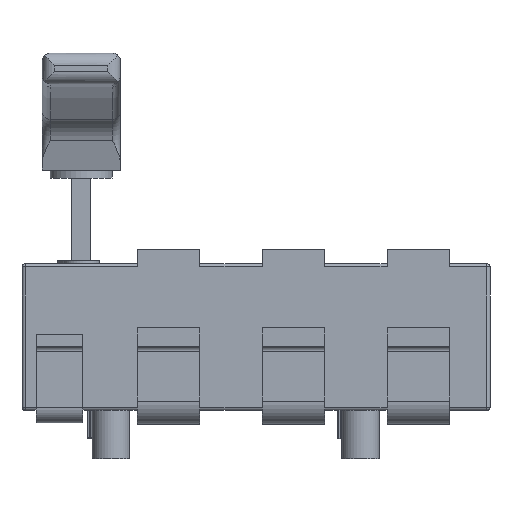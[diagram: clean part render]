
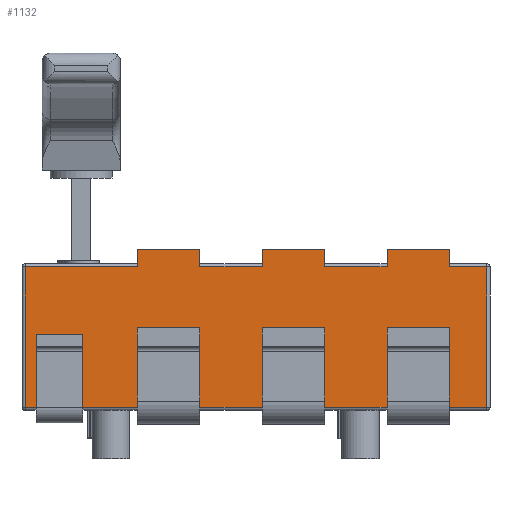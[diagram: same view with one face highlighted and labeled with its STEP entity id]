
A CAD part, front view. The second image highlights one B-rep face of the part: STEP entity #1132.
In plain terms, the highlighted planar face has unit normal (0, -1, 0).
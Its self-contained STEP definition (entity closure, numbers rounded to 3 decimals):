
#1132=ADVANCED_FACE('',(#1760),#1585,.F.);
#1585=PLANE('',#8019);
#1760=FACE_OUTER_BOUND('',#2130,.T.);
#2130=EDGE_LOOP('',(#2783,#2784,#2785,#2786,#2787,#2788,#2789,#2790,#2791,
#2792,#2793,#2794,#2795,#2796,#2797,#2798,#2799,#2800,#2801,#2802,#2803,
#2804,#2805,#2806,#2807,#2808,#2809,#2810));
#2783=ORIENTED_EDGE('',*,*,#5710,.T.);
#2784=ORIENTED_EDGE('',*,*,#5788,.T.);
#2785=ORIENTED_EDGE('',*,*,#5789,.F.);
#2786=ORIENTED_EDGE('',*,*,#5790,.F.);
#2787=ORIENTED_EDGE('',*,*,#5712,.T.);
#2788=ORIENTED_EDGE('',*,*,#5791,.T.);
#2789=ORIENTED_EDGE('',*,*,#5792,.T.);
#2790=ORIENTED_EDGE('',*,*,#5793,.F.);
#2791=ORIENTED_EDGE('',*,*,#5753,.T.);
#2792=ORIENTED_EDGE('',*,*,#5794,.T.);
#2793=ORIENTED_EDGE('',*,*,#5795,.T.);
#2794=ORIENTED_EDGE('',*,*,#5796,.F.);
#2795=ORIENTED_EDGE('',*,*,#5797,.T.);
#2796=ORIENTED_EDGE('',*,*,#5798,.T.);
#2797=ORIENTED_EDGE('',*,*,#5799,.T.);
#2798=ORIENTED_EDGE('',*,*,#5800,.F.);
#2799=ORIENTED_EDGE('',*,*,#5801,.F.);
#2800=ORIENTED_EDGE('',*,*,#5802,.F.);
#2801=ORIENTED_EDGE('',*,*,#5776,.T.);
#2802=ORIENTED_EDGE('',*,*,#5803,.T.);
#2803=ORIENTED_EDGE('',*,*,#5804,.T.);
#2804=ORIENTED_EDGE('',*,*,#5805,.T.);
#2805=ORIENTED_EDGE('',*,*,#5762,.T.);
#2806=ORIENTED_EDGE('',*,*,#5806,.T.);
#2807=ORIENTED_EDGE('',*,*,#5807,.T.);
#2808=ORIENTED_EDGE('',*,*,#5808,.T.);
#2809=ORIENTED_EDGE('',*,*,#5809,.T.);
#2810=ORIENTED_EDGE('',*,*,#5810,.T.);
#4963=VERTEX_POINT('',#11075);
#4964=VERTEX_POINT('',#11077);
#4965=VERTEX_POINT('',#11081);
#4966=VERTEX_POINT('',#11082);
#4999=VERTEX_POINT('',#11159);
#5000=VERTEX_POINT('',#11161);
#5005=VERTEX_POINT('',#11178);
#5007=VERTEX_POINT('',#11181);
#5015=VERTEX_POINT('',#11206);
#5016=VERTEX_POINT('',#11208);
#5025=VERTEX_POINT('',#11232);
#5026=VERTEX_POINT('',#11234);
#5027=VERTEX_POINT('',#11237);
#5028=VERTEX_POINT('',#11239);
#5029=VERTEX_POINT('',#11242);
#5030=VERTEX_POINT('',#11244);
#5031=VERTEX_POINT('',#11246);
#5032=VERTEX_POINT('',#11248);
#5033=VERTEX_POINT('',#11250);
#5034=VERTEX_POINT('',#11252);
#5035=VERTEX_POINT('',#11254);
#5036=VERTEX_POINT('',#11256);
#5037=VERTEX_POINT('',#11259);
#5038=VERTEX_POINT('',#11261);
#5039=VERTEX_POINT('',#11264);
#5040=VERTEX_POINT('',#11266);
#5041=VERTEX_POINT('',#11268);
#5042=VERTEX_POINT('',#11270);
#5710=EDGE_CURVE('',#4964,#4963,#6847,.T.);
#5712=EDGE_CURVE('',#4965,#4966,#6848,.T.);
#5753=EDGE_CURVE('',#4999,#5000,#6881,.T.);
#5762=EDGE_CURVE('',#5007,#5005,#6885,.T.);
#5776=EDGE_CURVE('',#5016,#5015,#6895,.T.);
#5788=EDGE_CURVE('',#4963,#5025,#6904,.T.);
#5789=EDGE_CURVE('',#5026,#5025,#6905,.T.);
#5790=EDGE_CURVE('',#4965,#5026,#6906,.T.);
#5791=EDGE_CURVE('',#4966,#5027,#6907,.T.);
#5792=EDGE_CURVE('',#5027,#5028,#6908,.T.);
#5793=EDGE_CURVE('',#4999,#5028,#6909,.T.);
#5794=EDGE_CURVE('',#5000,#5029,#6910,.T.);
#5795=EDGE_CURVE('',#5029,#5030,#6911,.T.);
#5796=EDGE_CURVE('',#5031,#5030,#6912,.T.);
#5797=EDGE_CURVE('',#5031,#5032,#6913,.T.);
#5798=EDGE_CURVE('',#5032,#5033,#6914,.T.);
#5799=EDGE_CURVE('',#5033,#5034,#6915,.T.);
#5800=EDGE_CURVE('',#5035,#5034,#6916,.T.);
#5801=EDGE_CURVE('',#5036,#5035,#6917,.T.);
#5802=EDGE_CURVE('',#5016,#5036,#6918,.T.);
#5803=EDGE_CURVE('',#5015,#5037,#6919,.T.);
#5804=EDGE_CURVE('',#5037,#5038,#6920,.T.);
#5805=EDGE_CURVE('',#5038,#5007,#6921,.T.);
#5806=EDGE_CURVE('',#5005,#5039,#6922,.T.);
#5807=EDGE_CURVE('',#5039,#5040,#6923,.T.);
#5808=EDGE_CURVE('',#5040,#5041,#6924,.T.);
#5809=EDGE_CURVE('',#5041,#5042,#6925,.T.);
#5810=EDGE_CURVE('',#5042,#4964,#6926,.T.);
#6847=LINE('',#11076,#7413);
#6848=LINE('',#11080,#7414);
#6881=LINE('',#11162,#7447);
#6885=LINE('',#11180,#7451);
#6895=LINE('',#11207,#7461);
#6904=LINE('',#11231,#7470);
#6905=LINE('',#11233,#7471);
#6906=LINE('',#11235,#7472);
#6907=LINE('',#11236,#7473);
#6908=LINE('',#11238,#7474);
#6909=LINE('',#11240,#7475);
#6910=LINE('',#11241,#7476);
#6911=LINE('',#11243,#7477);
#6912=LINE('',#11245,#7478);
#6913=LINE('',#11247,#7479);
#6914=LINE('',#11249,#7480);
#6915=LINE('',#11251,#7481);
#6916=LINE('',#11253,#7482);
#6917=LINE('',#11255,#7483);
#6918=LINE('',#11257,#7484);
#6919=LINE('',#11258,#7485);
#6920=LINE('',#11260,#7486);
#6921=LINE('',#11262,#7487);
#6922=LINE('',#11263,#7488);
#6923=LINE('',#11265,#7489);
#6924=LINE('',#11267,#7490);
#6925=LINE('',#11269,#7491);
#6926=LINE('',#11271,#7492);
#7413=VECTOR('',#8833,1.);
#7414=VECTOR('',#8838,1.);
#7447=VECTOR('',#8897,1.);
#7451=VECTOR('',#8917,1.);
#7461=VECTOR('',#8943,1.);
#7470=VECTOR('',#8964,1.);
#7471=VECTOR('',#8965,1.);
#7472=VECTOR('',#8966,1.);
#7473=VECTOR('',#8967,1.);
#7474=VECTOR('',#8968,1.);
#7475=VECTOR('',#8969,1.);
#7476=VECTOR('',#8970,1.);
#7477=VECTOR('',#8971,1.);
#7478=VECTOR('',#8972,1.);
#7479=VECTOR('',#8973,1.);
#7480=VECTOR('',#8974,1.);
#7481=VECTOR('',#8975,1.);
#7482=VECTOR('',#8976,1.);
#7483=VECTOR('',#8977,1.);
#7484=VECTOR('',#8978,1.);
#7485=VECTOR('',#8979,1.);
#7486=VECTOR('',#8980,1.);
#7487=VECTOR('',#8981,1.);
#7488=VECTOR('',#8982,1.);
#7489=VECTOR('',#8983,1.);
#7490=VECTOR('',#8984,1.);
#7491=VECTOR('',#8985,1.);
#7492=VECTOR('',#8986,1.);
#8019=AXIS2_PLACEMENT_3D('',#11272,#8987,#8988);
#8833=DIRECTION('',(-1.,0.,0.));
#8838=DIRECTION('',(-1.,0.,0.));
#8897=DIRECTION('',(-1.,0.,0.));
#8917=DIRECTION('',(1.,0.,0.));
#8943=DIRECTION('',(1.,0.,0.));
#8964=DIRECTION('',(0.,0.,1.));
#8965=DIRECTION('',(1.,0.,0.));
#8966=DIRECTION('',(0.,0.,1.));
#8967=DIRECTION('',(0.,0.,1.));
#8968=DIRECTION('',(-1.,0.,0.));
#8969=DIRECTION('',(0.,0.,1.));
#8970=DIRECTION('',(0.,0.,1.));
#8971=DIRECTION('',(-1.,0.,0.));
#8972=DIRECTION('',(0.,0.,1.));
#8973=DIRECTION('',(-1.,0.,0.));
#8974=DIRECTION('',(0.,0.,-1.));
#8975=DIRECTION('',(1.,0.,0.));
#8976=DIRECTION('',(0.,0.,-1.));
#8977=DIRECTION('',(-1.,0.,0.));
#8978=DIRECTION('',(0.,0.,1.));
#8979=DIRECTION('',(0.,0.,1.));
#8980=DIRECTION('',(1.,0.,0.));
#8981=DIRECTION('',(0.,0.,-1.));
#8982=DIRECTION('',(0.,0.,1.));
#8983=DIRECTION('',(1.,0.,0.));
#8984=DIRECTION('',(0.,0.,-1.));
#8985=DIRECTION('',(1.,0.,0.));
#8986=DIRECTION('',(0.,0.,1.));
#8987=DIRECTION('',(0.,1.,0.));
#8988=DIRECTION('',(0.,0.,1.));
#11075=CARTESIAN_POINT('',(124.,-75.,92.));
#11076=CARTESIAN_POINT('',(-148.,-75.,92.));
#11077=CARTESIAN_POINT('',(148.,-75.,92.));
#11080=CARTESIAN_POINT('',(-148.,-75.,92.));
#11081=CARTESIAN_POINT('',(84.,-75.,92.));
#11082=CARTESIAN_POINT('',(44.,-75.,92.));
#11159=CARTESIAN_POINT('',(4.,-75.,92.));
#11161=CARTESIAN_POINT('',(-36.,-75.,92.));
#11162=CARTESIAN_POINT('',(-148.,-75.,92.));
#11178=CARTESIAN_POINT('',(84.,-75.,2.));
#11180=CARTESIAN_POINT('',(-150.,-75.,2.));
#11181=CARTESIAN_POINT('',(44.,-75.,2.));
#11206=CARTESIAN_POINT('',(4.,-75.,2.));
#11207=CARTESIAN_POINT('',(-150.,-75.,2.));
#11208=CARTESIAN_POINT('',(-36.,-75.,2.));
#11231=CARTESIAN_POINT('',(124.,-75.,103.));
#11232=CARTESIAN_POINT('',(124.,-75.,103.));
#11233=CARTESIAN_POINT('',(124.,-75.,103.));
#11234=CARTESIAN_POINT('',(84.,-75.,103.));
#11235=CARTESIAN_POINT('',(84.,-75.,103.));
#11236=CARTESIAN_POINT('',(44.,-75.,103.));
#11237=CARTESIAN_POINT('',(44.,-75.,103.));
#11238=CARTESIAN_POINT('',(4.,-75.,103.));
#11239=CARTESIAN_POINT('',(4.,-75.,103.));
#11240=CARTESIAN_POINT('',(4.,-75.,103.));
#11241=CARTESIAN_POINT('',(-36.,-75.,103.));
#11242=CARTESIAN_POINT('',(-36.,-75.,103.));
#11243=CARTESIAN_POINT('',(-76.,-75.,103.));
#11244=CARTESIAN_POINT('',(-76.,-75.,103.));
#11245=CARTESIAN_POINT('',(-76.,-75.,103.));
#11246=CARTESIAN_POINT('',(-76.,-75.,92.));
#11247=CARTESIAN_POINT('',(-148.,-75.,92.));
#11248=CARTESIAN_POINT('',(-148.,-75.,92.));
#11249=CARTESIAN_POINT('',(-148.,-75.,94.));
#11250=CARTESIAN_POINT('',(-148.,-75.,2.));
#11251=CARTESIAN_POINT('',(-150.,-75.,2.));
#11252=CARTESIAN_POINT('',(-76.,-75.,2.));
#11253=CARTESIAN_POINT('',(-76.,-75.,94.));
#11254=CARTESIAN_POINT('',(-76.,-75.,3.));
#11255=CARTESIAN_POINT('',(-150.,-75.,3.));
#11256=CARTESIAN_POINT('',(-36.,-75.,3.));
#11257=CARTESIAN_POINT('',(-36.,-75.,94.));
#11258=CARTESIAN_POINT('',(4.,-75.,94.));
#11259=CARTESIAN_POINT('',(4.,-75.,3.));
#11260=CARTESIAN_POINT('',(-150.,-75.,3.));
#11261=CARTESIAN_POINT('',(44.,-75.,3.));
#11262=CARTESIAN_POINT('',(44.,-75.,94.));
#11263=CARTESIAN_POINT('',(84.,-75.,94.));
#11264=CARTESIAN_POINT('',(84.,-75.,3.));
#11265=CARTESIAN_POINT('',(-150.,-75.,3.));
#11266=CARTESIAN_POINT('',(124.,-75.,3.));
#11267=CARTESIAN_POINT('',(124.,-75.,94.));
#11268=CARTESIAN_POINT('',(124.,-75.,2.));
#11269=CARTESIAN_POINT('',(-150.,-75.,2.));
#11270=CARTESIAN_POINT('',(148.,-75.,2.));
#11271=CARTESIAN_POINT('',(148.,-75.,94.));
#11272=CARTESIAN_POINT('',(-150.,-75.,94.));
